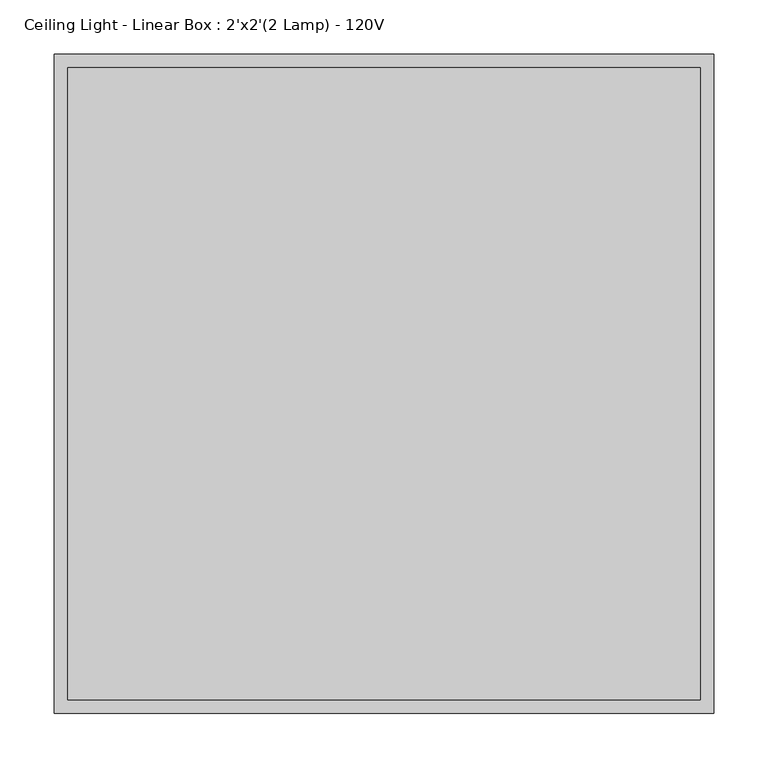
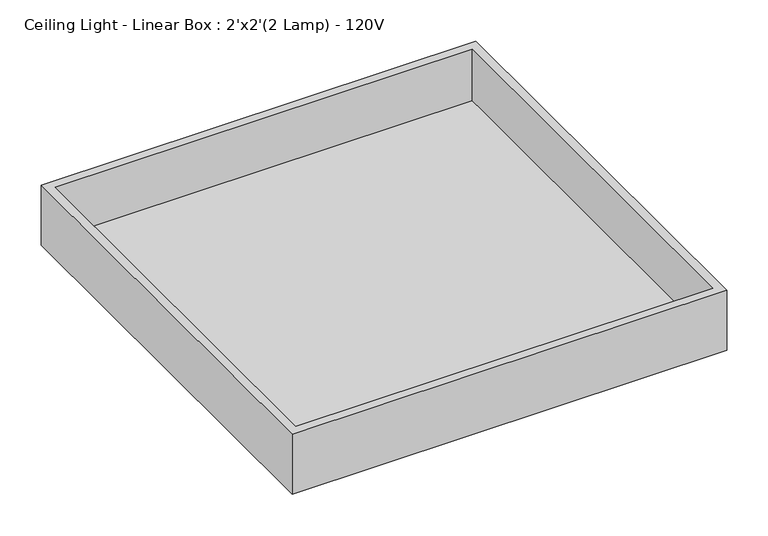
"""IFC4 building model written with IfcOpenShell, lengths in millimetres: light fixture geometry, Ceiling Light - Linear Box : 2'x2'(2 Lamp) - 120V."""

from ifc_helpers import new_model, si_unit, frame, origin, place, context, project, spatial, polyline, outline, extrude, source, transform, mapped, element, save


def ceiling_light_linear_box_2_x2_2_lamp_120v_60b3670b(model_context):
    return source(origin(), model_context, "Body", "SweptSolid", [
        extrude(outline(polyline([(292.1, 292.1), (292.1, -292.1), (-292.1, -292.1), (-292.1, 292.1), (292.1, 292.1)])), frame((0.0, 0.0, 2355.85), z_axis=(0.0, 0.0, 1.0), x_axis=(1.0, 0.0, 0.0)), (0.0, 0.0, 1.0), 6.35),
        extrude(outline(polyline([(304.8, 304.8), (304.8, -304.8), (-304.8, -304.8), (-304.8, 304.8), (304.8, 304.8)]), holes=[polyline([(292.1, 292.1), (-292.1, 292.1), (-292.1, -292.1), (292.1, -292.1), (292.1, 292.1)])]), frame((0.0, 0.0, 2349.5), z_axis=(0.0, 0.0, 1.0), x_axis=(1.0, 0.0, 0.0)), (0.0, 0.0, 1.0), 88.9),
    ])


if __name__ == "__main__":
    model = new_model("IFC4")
    model_context = context("Model", 3, world=origin())
    ifc_project = project(units=[si_unit("LENGTHUNIT", "METRE", prefix="MILLI")], contexts=[model_context])
    site = spatial("IfcSite", under=ifc_project)
    building = spatial("IfcBuilding", under=site)
    placement = place(None, origin())
    ceiling_light_linear_box_2_x2_2_lamp_120v_shape = ceiling_light_linear_box_2_x2_2_lamp_120v_60b3670b(model_context)
    element("IfcLightFixture", 1, ObjectType="Ceiling Light - Linear Box : 2'x2'(2 Lamp) - 120V", at=placement, inside=building, context=model_context, shape_type="MappedRepresentation", body=[
        mapped(ceiling_light_linear_box_2_x2_2_lamp_120v_shape, transform((0.0, 0.0, 0.0), x_axis=(1.0, 0.0, 0.0), y_axis=(0.0, 1.0, 0.0), z_axis=(0.0, 0.0, 1.0))),
    ])
    save(model, "model.ifc")
